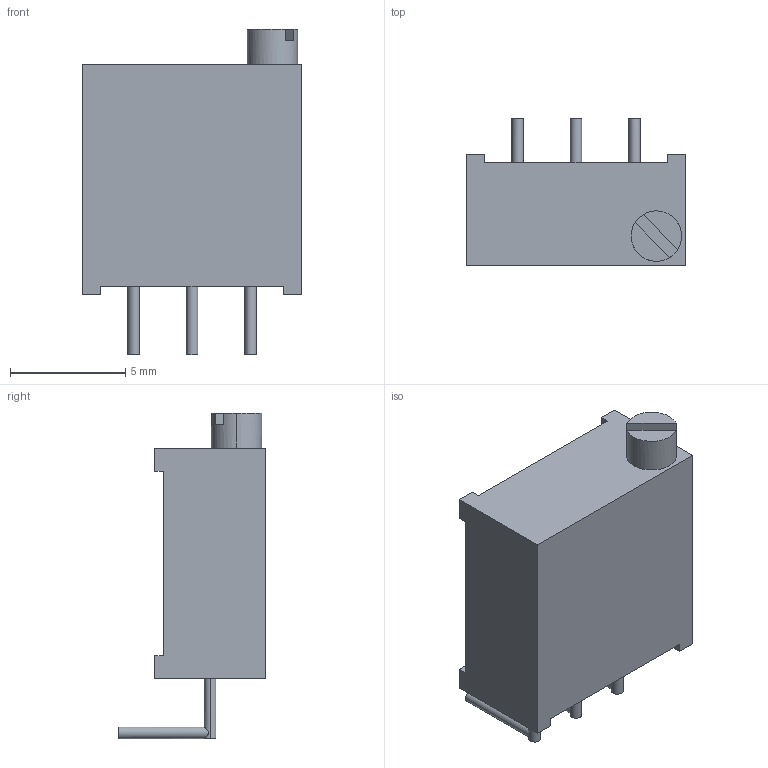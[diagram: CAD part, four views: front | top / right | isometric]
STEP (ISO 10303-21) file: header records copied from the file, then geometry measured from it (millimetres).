
FILE_DESCRIPTION(('FreeCAD Model'),'2;1');
FILE_NAME('Open CASCADE Shape Model','2022-05-28T11:23:19',('Author'),( ''),'Open CASCADE STEP processor 7.5','FreeCAD','Unknown');
FILE_SCHEMA(('AUTOMOTIVE_DESIGN { 1 0 10303 214 1 1 1 1 }'));
Length unit declared in the file: millimetre
Products named in the file (1): Fusion002
Bounding box: 9.53 x 6.42 x 14.15 mm (x, y, z)
Volume: 422.4 mm3; surface area: 412.4 mm2
Topology: 1 solids, 1 shells, 42 faces, 99 edges, 66 vertices
Faces by surface type: plane 31, cylinder 11
Full cylindrical faces by diameter (mm): 0.5 x3
Entity records: 3865 total; most frequent: CARTESIAN_POINT 1543, DIRECTION 389, LINE 242, VECTOR 242, ORIENTED_EDGE 198, PCURVE 198, DEFINITIONAL_REPRESENTATION 198, EDGE_CURVE 99
